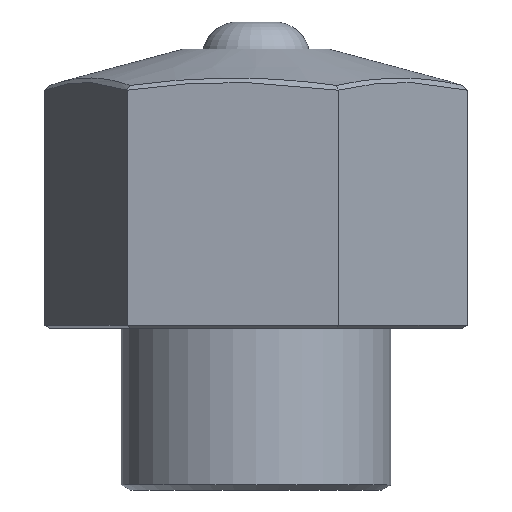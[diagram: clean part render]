
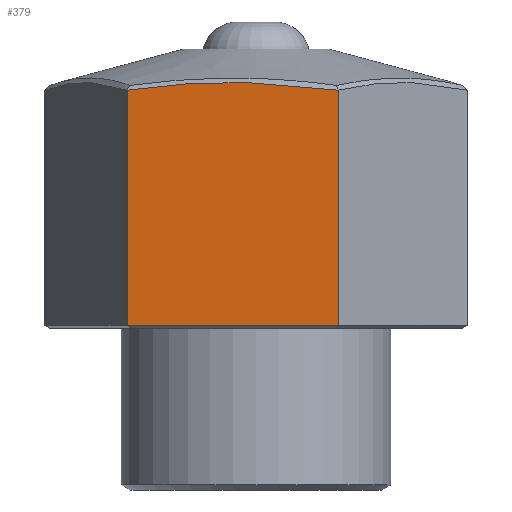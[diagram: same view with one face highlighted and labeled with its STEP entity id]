
A CAD part, front view. The second image highlights one B-rep face of the part: STEP entity #379.
In plain terms, the highlighted planar face has unit normal (-0.126, -0.992, 0).
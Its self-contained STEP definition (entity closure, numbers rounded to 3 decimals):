
#25 = DIRECTION ( 'NONE',  ( 0., 0., -1. ) ) ;
#106 = CARTESIAN_POINT ( 'NONE',  ( -11.33, -19.226, 44.797 ) ) ;
#109 = EDGE_CURVE ( 'NONE', #997, #1367, #1843, .T. ) ;
#114 = CARTESIAN_POINT ( 'NONE',  ( -6.716, -19.812, 45.184 ) ) ;
#125 = CARTESIAN_POINT ( 'NONE',  ( -8.93, -19.531, 45.029 ) ) ;
#231 = ORIENTED_EDGE ( 'NONE', *, *, #1712, .T. ) ;
#240 = CARTESIAN_POINT ( 'NONE',  ( 6.325, -21.467, 44.779 ) ) ;
#262 = CARTESIAN_POINT ( 'NONE',  ( -8.422, -19.595, 45.068 ) ) ;
#271 = DIRECTION ( 'NONE',  ( 0.992, -0.126, 0. ) ) ;
#274 = CARTESIAN_POINT ( 'NONE',  ( -3.772, -20.186, 45.287 ) ) ;
#290 = CARTESIAN_POINT ( 'NONE',  ( 9.16, -21.827, 18.289 ) ) ;
#296 = CARTESIAN_POINT ( 'NONE',  ( -11.173, -19.246, 44.814 ) ) ;
#307 = CARTESIAN_POINT ( 'NONE',  ( -10.954, -19.274, 44.837 ) ) ;
#317 = AXIS2_PLACEMENT_3D ( 'NONE', #2152, #460, #1134 ) ;
#379 = ADVANCED_FACE ( 'NONE', ( #644 ), #650, .F. ) ;
#384 = CARTESIAN_POINT ( 'NONE',  ( 6.678, -21.512, 44.74 ) ) ;
#407 = CARTESIAN_POINT ( 'NONE',  ( 2.12, -20.934, 45.151 ) ) ;
#411 = EDGE_CURVE ( 'NONE', #1585, #1367, #635, .T. ) ;
#419 = VECTOR ( 'NONE', #25, 1000. ) ;
#427 = CARTESIAN_POINT ( 'NONE',  ( -14.323, -18.846, 18.289 ) ) ;
#460 = DIRECTION ( 'NONE',  ( 0.126, 0.992, 0. ) ) ;
#461 = CARTESIAN_POINT ( 'NONE',  ( -13.316, -18.974, 44.564 ) ) ;
#470 = CARTESIAN_POINT ( 'NONE',  ( -5.984, -19.905, 45.22 ) ) ;
#485 = CARTESIAN_POINT ( 'NONE',  ( -14.323, -18.846, 49. ) ) ;
#543 = CARTESIAN_POINT ( 'NONE',  ( -0.563, -20.593, 45.27 ) ) ;
#559 = ORIENTED_EDGE ( 'NONE', *, *, #605, .T. ) ;
#579 = CARTESIAN_POINT ( 'NONE',  ( 3.474, -21.106, 45.052 ) ) ;
#588 = CARTESIAN_POINT ( 'NONE',  ( 0.542, -20.733, 45.231 ) ) ;
#605 = EDGE_CURVE ( 'NONE', #1342, #997, #822, .T. ) ;
#609 = CARTESIAN_POINT ( 'NONE',  ( -7.581, -19.702, 45.129 ) ) ;
#624 = CARTESIAN_POINT ( 'NONE',  ( 9.16, -21.827, 49. ) ) ;
#626 = CARTESIAN_POINT ( 'NONE',  ( -5.067, -20.021, 45.255 ) ) ;
#635 = LINE ( 'NONE', #624, #737 ) ;
#636 = CARTESIAN_POINT ( 'NONE',  ( -11.363, -19.222, 44.793 ) ) ;
#644 = FACE_OUTER_BOUND ( 'NONE', #654, .T. ) ;
#650 = PLANE ( 'NONE',  #317 ) ;
#654 = EDGE_LOOP ( 'NONE', ( #559, #1194, #1410, #231 ) ) ;
#705 = CARTESIAN_POINT ( 'NONE',  ( 0.175, -20.687, 45.246 ) ) ;
#724 = CARTESIAN_POINT ( 'NONE',  ( 5.033, -21.303, 44.916 ) ) ;
#735 = CARTESIAN_POINT ( 'NONE',  ( 3.771, -21.143, 45.028 ) ) ;
#737 = VECTOR ( 'NONE', #1832, 1000. ) ;
#774 = CARTESIAN_POINT ( 'NONE',  ( -2.783, -20.311, 45.297 ) ) ;
#776 = CARTESIAN_POINT ( 'NONE',  ( -14.323, -18.846, 44.425 ) ) ;
#822 = LINE ( 'NONE', #485, #419 ) ;
#887 = CARTESIAN_POINT ( 'NONE',  ( 6.298, -21.464, 44.782 ) ) ;
#899 = CARTESIAN_POINT ( 'NONE',  ( 4.189, -21.196, 44.993 ) ) ;
#910 = CARTESIAN_POINT ( 'NONE',  ( 0.844, -20.772, 45.218 ) ) ;
#920 = CARTESIAN_POINT ( 'NONE',  ( 7.929, -21.671, 44.59 ) ) ;
#929 = CARTESIAN_POINT ( 'NONE',  ( -10.519, -19.329, 44.883 ) ) ;
#959 = CARTESIAN_POINT ( 'NONE',  ( -3.897, -20.17, 45.285 ) ) ;
#970 = CARTESIAN_POINT ( 'NONE',  ( -11.267, -19.234, 44.804 ) ) ;
#997 = VERTEX_POINT ( 'NONE', #1150 ) ;
#1044 = CARTESIAN_POINT ( 'NONE',  ( -0.806, -20.562, 45.276 ) ) ;
#1095 = CARTESIAN_POINT ( 'NONE',  ( -8.39, -19.599, 45.071 ) ) ;
#1125 = CARTESIAN_POINT ( 'NONE',  ( -8.234, -19.619, 45.083 ) ) ;
#1134 = DIRECTION ( 'NONE',  ( -0.992, 0.126, 0. ) ) ;
#1135 = CARTESIAN_POINT ( 'NONE',  ( -9.656, -19.439, 44.967 ) ) ;
#1150 = CARTESIAN_POINT ( 'NONE',  ( -14.323, -18.846, 18.289 ) ) ;
#1194 = ORIENTED_EDGE ( 'NONE', *, *, #109, .T. ) ;
#1236 = CARTESIAN_POINT ( 'NONE',  ( 3.386, -21.094, 45.059 ) ) ;
#1244 = CARTESIAN_POINT ( 'NONE',  ( 0.484, -20.726, 45.233 ) ) ;
#1286 = CARTESIAN_POINT ( 'NONE',  ( -5.376, -19.982, 45.244 ) ) ;
#1342 = VERTEX_POINT ( 'NONE', #776 ) ;
#1367 = VERTEX_POINT ( 'NONE', #290 ) ;
#1368 = CARTESIAN_POINT ( 'NONE',  ( -0.071, -20.655, 45.255 ) ) ;
#1410 = ORIENTED_EDGE ( 'NONE', *, *, #411, .F. ) ;
#1424 = CARTESIAN_POINT ( 'NONE',  ( -5.253, -19.998, 45.248 ) ) ;
#1445 = CARTESIAN_POINT ( 'NONE',  ( -14.323, -18.846, 44.425 ) ) ;
#1512 = VECTOR ( 'NONE', #271, 1000. ) ;
#1559 = CARTESIAN_POINT ( 'NONE',  ( 5.77, -21.397, 44.841 ) ) ;
#1584 = CARTESIAN_POINT ( 'NONE',  ( 0.663, -20.749, 45.226 ) ) ;
#1585 = VERTEX_POINT ( 'NONE', #1908 ) ;
#1594 = CARTESIAN_POINT ( 'NONE',  ( 6.472, -21.486, 44.763 ) ) ;
#1625 = CARTESIAN_POINT ( 'NONE',  ( -4.635, -20.076, 45.269 ) ) ;
#1712 = EDGE_CURVE ( 'NONE', #1585, #1342, #1729, .T. ) ;
#1716 = CARTESIAN_POINT ( 'NONE',  ( -1.548, -20.468, 45.291 ) ) ;
#1729 = B_SPLINE_CURVE_WITH_KNOTS ( 'NONE', 3,
 ( #1894, #1764, #920, #1742, #384, #1594, #2080, #240, #887, #1559, #724, #899, #735, #2095, #579, #2102, #1236, #1919, #407, #1753, #910, #1584, #588, #1244, #705, #1368, #543, #1044, #1716, #1984, #774, #1811, #2123, #274, #959, #1802, #1625, #626, #1424, #1286, #1781, #470, #114, #609, #2111, #1125, #2156, #1095, #262, #125, #1135, #929, #307, #296, #970, #106, #636, #1771, #461, #1445 ),
 .UNSPECIFIED., .F., .F.,
 ( 4, 1, 1, 1, 1, 2, 2, 1, 1, 1, 1, 2, 2, 1, 1, 1, 2, 2, 2, 2, 2, 1, 2, 2, 1, 1, 2, 2, 1, 1, 1, 1, 2, 2, 1, 1, 1, 1, 2, 2, 4 ),
 ( 0., 0.062, 0.094, 0.109, 0.117, 0.121, 0.125, 0.187, 0.219, 0.234, 0.242, 0.246, 0.25, 0.312, 0.344, 0.359, 0.367, 0.375, 0.406, 0.437, 0.5, 0.531, 0.547, 0.562, 0.594, 0.609, 0.617, 0.625, 0.687, 0.719, 0.734, 0.742, 0.746, 0.75, 0.812, 0.844, 0.859, 0.867, 0.871, 0.875, 1. ),
 .UNSPECIFIED. ) ;
#1742 = CARTESIAN_POINT ( 'NONE',  ( 7.092, -21.565, 44.691 ) ) ;
#1753 = CARTESIAN_POINT ( 'NONE',  ( 1.267, -20.825, 45.197 ) ) ;
#1764 = CARTESIAN_POINT ( 'NONE',  ( 8.663, -21.764, 44.493 ) ) ;
#1771 = CARTESIAN_POINT ( 'NONE',  ( -12.34, -19.098, 44.686 ) ) ;
#1781 = CARTESIAN_POINT ( 'NONE',  ( -5.44, -19.974, 45.241 ) ) ;
#1802 = CARTESIAN_POINT ( 'NONE',  ( -4.265, -20.123, 45.278 ) ) ;
#1811 = CARTESIAN_POINT ( 'NONE',  ( -3.153, -20.264, 45.296 ) ) ;
#1832 = DIRECTION ( 'NONE',  ( 0., 0., -1. ) ) ;
#1843 = LINE ( 'NONE', #427, #1512 ) ;
#1894 = CARTESIAN_POINT ( 'NONE',  ( 9.16, -21.827, 44.425 ) ) ;
#1908 = CARTESIAN_POINT ( 'NONE',  ( 9.16, -21.827, 44.425 ) ) ;
#1919 = CARTESIAN_POINT ( 'NONE',  ( 2.859, -21.027, 45.1 ) ) ;
#1984 = CARTESIAN_POINT ( 'NONE',  ( -2.042, -20.405, 45.297 ) ) ;
#2080 = CARTESIAN_POINT ( 'NONE',  ( 6.384, -21.475, 44.773 ) ) ;
#2095 = CARTESIAN_POINT ( 'NONE',  ( 3.563, -21.117, 45.045 ) ) ;
#2102 = CARTESIAN_POINT ( 'NONE',  ( 3.415, -21.098, 45.056 ) ) ;
#2111 = CARTESIAN_POINT ( 'NONE',  ( -8.016, -19.647, 45.099 ) ) ;
#2123 = CARTESIAN_POINT ( 'NONE',  ( -3.524, -20.217, 45.291 ) ) ;
#2152 = CARTESIAN_POINT ( 'NONE',  ( -14.323, -18.846, 49. ) ) ;
#2156 = CARTESIAN_POINT ( 'NONE',  ( -8.327, -19.607, 45.076 ) ) ;
